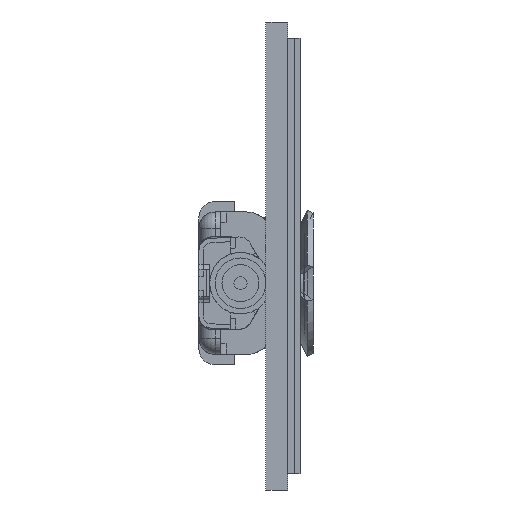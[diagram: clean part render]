
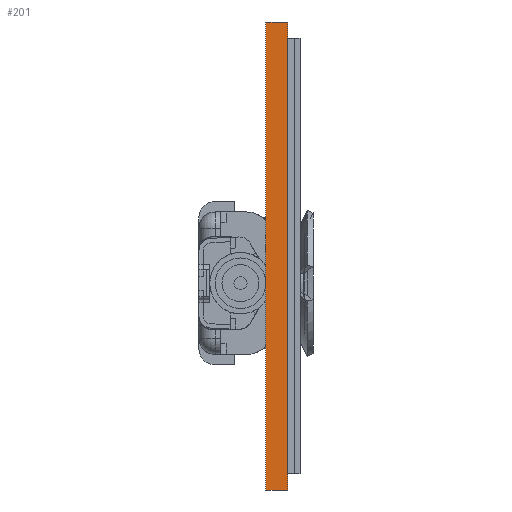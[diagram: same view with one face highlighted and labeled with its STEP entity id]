
A CAD part, left-side view. The second image highlights one B-rep face of the part: STEP entity #201.
In plain terms, the highlighted planar face has unit normal (-1, 0, 0).
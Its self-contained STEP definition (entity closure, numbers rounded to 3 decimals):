
#17=DIRECTION('',(0.,0.,1.));
#18=VECTOR('',#17,8.6);
#19=CARTESIAN_POINT('',(0.,0.,0.));
#20=LINE('',#19,#18);
#25=DIRECTION('',(0.,1.,0.));
#26=VECTOR('',#25,0.4);
#27=CARTESIAN_POINT('',(0.,0.,0.));
#28=LINE('',#27,#26);
#41=DIRECTION('',(0.,-1.,0.));
#42=VECTOR('',#41,0.4);
#43=CARTESIAN_POINT('',(0.,0.4,8.6));
#44=LINE('',#43,#42);
#49=DIRECTION('',(0.,0.,1.));
#50=VECTOR('',#49,8.6);
#51=CARTESIAN_POINT('',(0.,0.4,0.));
#52=LINE('',#51,#50);
#121=CARTESIAN_POINT('',(0.,0.,0.));
#122=CARTESIAN_POINT('',(0.,0.,8.6));
#123=VERTEX_POINT('',#121);
#124=VERTEX_POINT('',#122);
#129=CARTESIAN_POINT('',(0.,0.4,0.));
#130=VERTEX_POINT('',#129);
#131=CARTESIAN_POINT('',(0.,0.4,8.6));
#132=VERTEX_POINT('',#131);
#187=CARTESIAN_POINT('',(0.,0.2,4.3));
#188=DIRECTION('',(1.,0.,0.));
#189=DIRECTION('',(0.,0.,1.));
#190=AXIS2_PLACEMENT_3D('',#187,#188,#189);
#191=PLANE('',#190);
#192=ORIENTED_EDGE('',*,*,#166,.F.);
#194=ORIENTED_EDGE('',*,*,#193,.T.);
#196=ORIENTED_EDGE('',*,*,#195,.T.);
#198=ORIENTED_EDGE('',*,*,#197,.T.);
#199=EDGE_LOOP('',(#192,#194,#196,#198));
#200=FACE_OUTER_BOUND('',#199,.F.);
#201=ADVANCED_FACE('',(#200),#191,.F.);
#166=EDGE_CURVE('',#123,#124,#20,.T.);
#193=EDGE_CURVE('',#123,#130,#28,.T.);
#195=EDGE_CURVE('',#130,#132,#52,.T.);
#197=EDGE_CURVE('',#132,#124,#44,.T.);
